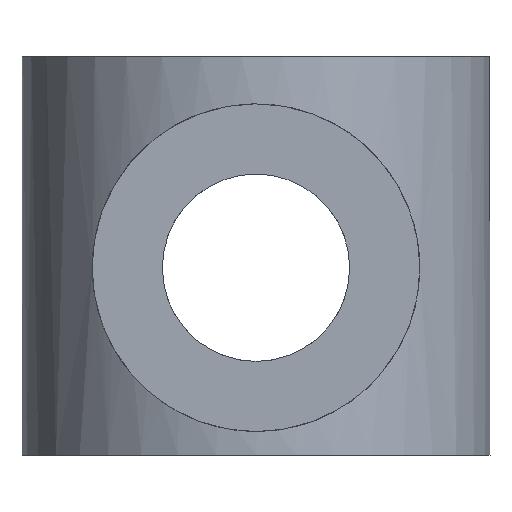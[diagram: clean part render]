
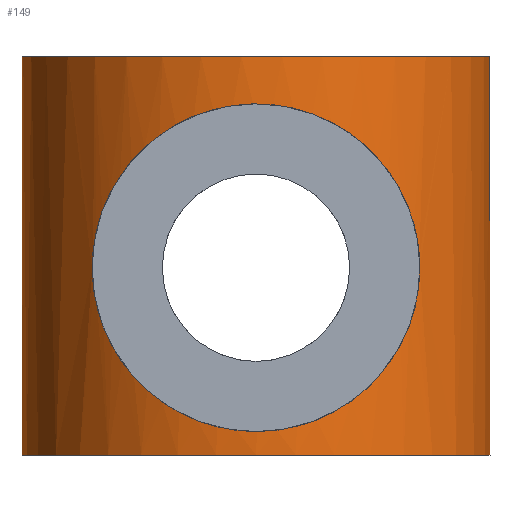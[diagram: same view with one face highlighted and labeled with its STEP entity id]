
A CAD part, left-side view. The second image highlights one B-rep face of the part: STEP entity #149.
In plain terms, the highlighted cylindrical face has radius 5 mm (diameter 10 mm), a full revolution.
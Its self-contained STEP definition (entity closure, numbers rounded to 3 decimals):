
#13=LINE($,#297,#23);
#14=LINE($,#301,#24);
#23=VECTOR($,#188,1.5);
#24=VECTOR($,#191,1.5);
#44=FACE_BOUND($,#67,.T.);
#45=FACE_BOUND($,#68,.T.);
#46=FACE_BOUND($,#69,.T.);
#47=FACE_BOUND($,#70,.T.);
#50=CIRCLE($,#165,5.);
#51=CIRCLE($,#166,5.);
#52=CIRCLE($,#167,5.);
#67=EDGE_LOOP($,(#115));
#68=EDGE_LOOP($,(#116));
#69=EDGE_LOOP($,(#117,#118,#119,#120));
#70=EDGE_LOOP($,(#121));
#77=B_SPLINE_CURVE_WITH_KNOTS($,3,(#219,#220,#221,#222,#223,#224,#225,#226,
#227,#228,#229,#230,#231,#232,#233,#234,#235,#236,#237,#238,#239,#240,#241,
#242,#243,#244,#245,#246,#247,#248,#249,#250,#251,#252),.UNSPECIFIED.,.T.,
 .F.,(4,2,2,2,2,2,2,2,2,2,2,2,2,2,2,2,4),(0.,0.076,0.153,
0.229,0.305,0.381,0.458,
0.534,0.61,0.686,0.763,
0.839,0.915,0.992,1.068,1.144,
1.22),.UNSPECIFIED.);
#78=B_SPLINE_CURVE_WITH_KNOTS($,3,(#257,#258,#259,#260,#261,#262,#263,#264,
#265,#266,#267,#268,#269,#270,#271,#272,#273,#274,#275,#276,#277,#278,#279,
#280,#281,#282,#283,#284,#285,#286,#287,#288,#289,#290),.UNSPECIFIED.,.T.,
 .F.,(4,2,2,2,2,2,2,2,2,2,2,2,2,2,2,2,4),(0.,0.139,0.278,
0.415,0.552,0.69,0.827,
0.966,1.105,1.244,1.383,1.52,
1.657,1.795,1.932,2.071,2.21),
 .UNSPECIFIED.);
#79=VERTEX_POINT($,#218);
#81=VERTEX_POINT($,#256);
#83=VERTEX_POINT($,#295);
#84=VERTEX_POINT($,#296);
#85=VERTEX_POINT($,#298);
#86=VERTEX_POINT($,#300);
#87=VERTEX_POINT($,#303);
#92=EDGE_CURVE($,#79,#79,#77,.T.);
#94=EDGE_CURVE($,#81,#81,#78,.T.);
#96=EDGE_CURVE($,#83,#84,#13,.T.);
#97=EDGE_CURVE($,#83,#85,#50,.T.);
#98=EDGE_CURVE($,#85,#86,#14,.T.);
#99=EDGE_CURVE($,#84,#86,#51,.T.);
#100=EDGE_CURVE($,#87,#87,#52,.T.);
#115=ORIENTED_EDGE($,*,*,#92,.T.);
#116=ORIENTED_EDGE($,*,*,#94,.T.);
#117=ORIENTED_EDGE($,*,*,#96,.F.);
#118=ORIENTED_EDGE($,*,*,#97,.T.);
#119=ORIENTED_EDGE($,*,*,#98,.T.);
#120=ORIENTED_EDGE($,*,*,#99,.F.);
#121=ORIENTED_EDGE($,*,*,#100,.F.);
#145=CYLINDRICAL_SURFACE($,#164,5.);
#149=ADVANCED_FACE($,(#44,#45,#46,#47),#145,.T.);
#164=AXIS2_PLACEMENT_3D($,#294,#186,#187);
#165=AXIS2_PLACEMENT_3D($,#299,#189,#190);
#166=AXIS2_PLACEMENT_3D($,#302,#192,#193);
#167=AXIS2_PLACEMENT_3D($,#304,#194,#195);
#186=DIRECTION('center_axis',(0.,0.,1.));
#187=DIRECTION('ref_axis',(0.917,0.4,0.));
#188=DIRECTION($,(0.,0.,1.));
#189=DIRECTION('center_axis',(0.,0.,1.));
#190=DIRECTION('ref_axis',(0.917,0.4,0.));
#191=DIRECTION($,(0.,0.,1.));
#192=DIRECTION('center_axis',(0.,0.,-1.));
#193=DIRECTION('ref_axis',(-1.,0.,0.));
#194=DIRECTION('center_axis',(0.,0.,1.));
#195=DIRECTION('ref_axis',(1.,0.,0.));
#218=CARTESIAN_POINT('',(10.53,7.867,4.));
#219=CARTESIAN_POINT('Ctrl Pts',(10.53,7.867,4.));
#220=CARTESIAN_POINT('Ctrl Pts',(10.53,7.867,3.746));
#221=CARTESIAN_POINT('Ctrl Pts',(10.553,7.816,3.477));
#222=CARTESIAN_POINT('Ctrl Pts',(10.634,7.611,2.985));
#223=CARTESIAN_POINT('Ctrl Pts',(10.691,7.457,2.762));
#224=CARTESIAN_POINT('Ctrl Pts',(10.795,7.105,2.41));
#225=CARTESIAN_POINT('Ctrl Pts',(10.849,6.882,2.256));
#226=CARTESIAN_POINT('Ctrl Pts',(10.926,6.39,2.051));
#227=CARTESIAN_POINT('Ctrl Pts',(10.947,6.121,2.));
#228=CARTESIAN_POINT('Ctrl Pts',(10.947,5.613,2.));
#229=CARTESIAN_POINT('Ctrl Pts',(10.926,5.344,2.051));
#230=CARTESIAN_POINT('Ctrl Pts',(10.849,4.852,2.256));
#231=CARTESIAN_POINT('Ctrl Pts',(10.795,4.629,2.41));
#232=CARTESIAN_POINT('Ctrl Pts',(10.691,4.277,2.762));
#233=CARTESIAN_POINT('Ctrl Pts',(10.634,4.123,2.985));
#234=CARTESIAN_POINT('Ctrl Pts',(10.553,3.918,3.477));
#235=CARTESIAN_POINT('Ctrl Pts',(10.53,3.867,3.746));
#236=CARTESIAN_POINT('Ctrl Pts',(10.53,3.867,4.254));
#237=CARTESIAN_POINT('Ctrl Pts',(10.553,3.918,4.523));
#238=CARTESIAN_POINT('Ctrl Pts',(10.634,4.123,5.015));
#239=CARTESIAN_POINT('Ctrl Pts',(10.691,4.277,5.238));
#240=CARTESIAN_POINT('Ctrl Pts',(10.795,4.629,5.59));
#241=CARTESIAN_POINT('Ctrl Pts',(10.849,4.852,5.744));
#242=CARTESIAN_POINT('Ctrl Pts',(10.926,5.344,5.949));
#243=CARTESIAN_POINT('Ctrl Pts',(10.947,5.613,6.));
#244=CARTESIAN_POINT('Ctrl Pts',(10.947,6.121,6.));
#245=CARTESIAN_POINT('Ctrl Pts',(10.926,6.39,5.949));
#246=CARTESIAN_POINT('Ctrl Pts',(10.849,6.882,5.744));
#247=CARTESIAN_POINT('Ctrl Pts',(10.795,7.105,5.59));
#248=CARTESIAN_POINT('Ctrl Pts',(10.691,7.457,5.238));
#249=CARTESIAN_POINT('Ctrl Pts',(10.634,7.611,5.015));
#250=CARTESIAN_POINT('Ctrl Pts',(10.553,7.816,4.523));
#251=CARTESIAN_POINT('Ctrl Pts',(10.53,7.867,4.254));
#252=CARTESIAN_POINT('Ctrl Pts',(10.53,7.867,4.));
#256=CARTESIAN_POINT('',(2.376,2.367,4.));
#257=CARTESIAN_POINT('Ctrl Pts',(2.376,2.367,4.));
#258=CARTESIAN_POINT('Ctrl Pts',(2.376,2.367,3.536));
#259=CARTESIAN_POINT('Ctrl Pts',(2.277,2.463,3.064));
#260=CARTESIAN_POINT('Ctrl Pts',(1.973,2.823,2.211));
#261=CARTESIAN_POINT('Ctrl Pts',(1.776,3.088,1.829));
#262=CARTESIAN_POINT('Ctrl Pts',(1.432,3.692,1.225));
#263=CARTESIAN_POINT('Ctrl Pts',(1.258,4.075,0.958));
#264=CARTESIAN_POINT('Ctrl Pts',(1.015,4.933,0.595));
#265=CARTESIAN_POINT('Ctrl Pts',(0.947,5.41,0.5));
#266=CARTESIAN_POINT('Ctrl Pts',(0.947,6.324,0.5));
#267=CARTESIAN_POINT('Ctrl Pts',(1.015,6.801,0.595));
#268=CARTESIAN_POINT('Ctrl Pts',(1.258,7.659,0.958));
#269=CARTESIAN_POINT('Ctrl Pts',(1.432,8.042,1.225));
#270=CARTESIAN_POINT('Ctrl Pts',(1.776,8.646,1.829));
#271=CARTESIAN_POINT('Ctrl Pts',(1.973,8.911,2.211));
#272=CARTESIAN_POINT('Ctrl Pts',(2.277,9.271,3.064));
#273=CARTESIAN_POINT('Ctrl Pts',(2.376,9.367,3.536));
#274=CARTESIAN_POINT('Ctrl Pts',(2.376,9.367,4.464));
#275=CARTESIAN_POINT('Ctrl Pts',(2.277,9.271,4.936));
#276=CARTESIAN_POINT('Ctrl Pts',(1.973,8.911,5.789));
#277=CARTESIAN_POINT('Ctrl Pts',(1.776,8.646,6.171));
#278=CARTESIAN_POINT('Ctrl Pts',(1.432,8.042,6.775));
#279=CARTESIAN_POINT('Ctrl Pts',(1.258,7.659,7.042));
#280=CARTESIAN_POINT('Ctrl Pts',(1.015,6.801,7.405));
#281=CARTESIAN_POINT('Ctrl Pts',(0.947,6.324,7.5));
#282=CARTESIAN_POINT('Ctrl Pts',(0.947,5.41,7.5));
#283=CARTESIAN_POINT('Ctrl Pts',(1.015,4.933,7.405));
#284=CARTESIAN_POINT('Ctrl Pts',(1.258,4.075,7.042));
#285=CARTESIAN_POINT('Ctrl Pts',(1.432,3.692,6.775));
#286=CARTESIAN_POINT('Ctrl Pts',(1.776,3.088,6.171));
#287=CARTESIAN_POINT('Ctrl Pts',(1.973,2.823,5.789));
#288=CARTESIAN_POINT('Ctrl Pts',(2.277,2.463,4.936));
#289=CARTESIAN_POINT('Ctrl Pts',(2.376,2.367,4.464));
#290=CARTESIAN_POINT('Ctrl Pts',(2.376,2.367,4.));
#294=CARTESIAN_POINT('Origin',(5.947,5.867,0.));
#295=CARTESIAN_POINT('',(10.53,7.867,0.));
#296=CARTESIAN_POINT('',(10.53,7.867,1.5));
#297=CARTESIAN_POINT($,(10.53,7.867,0.));
#298=CARTESIAN_POINT('',(10.53,3.867,0.));
#299=CARTESIAN_POINT('Origin',(5.947,5.867,0.));
#300=CARTESIAN_POINT('',(10.53,3.867,1.5));
#301=CARTESIAN_POINT($,(10.53,3.867,0.));
#302=CARTESIAN_POINT('Origin',(5.947,5.867,1.5));
#303=CARTESIAN_POINT('',(10.53,3.867,8.5));
#304=CARTESIAN_POINT('Origin',(5.947,5.867,8.5));
